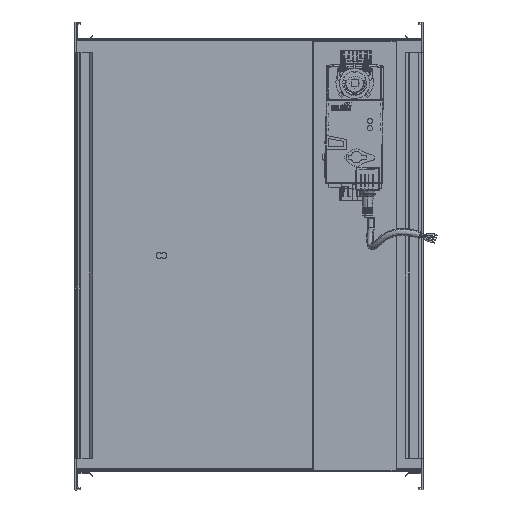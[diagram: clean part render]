
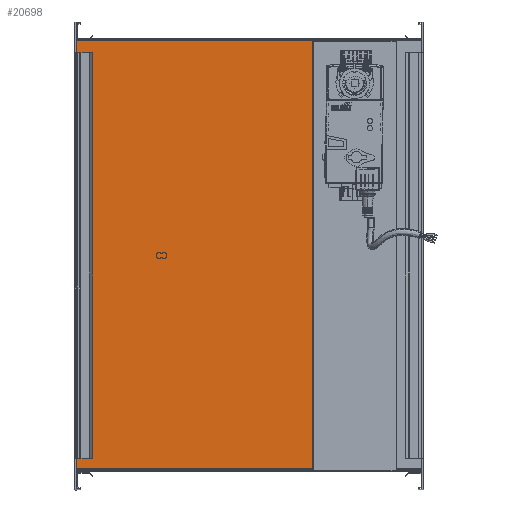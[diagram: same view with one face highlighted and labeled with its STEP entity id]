
A CAD part, top view. The second image highlights one B-rep face of the part: STEP entity #20698.
In plain terms, the highlighted planar face has unit normal (0, 0, 1).
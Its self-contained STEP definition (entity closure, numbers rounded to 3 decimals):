
#1506 = VECTOR ( 'NONE', #58450, 1000. ) ;
#1626 = FACE_OUTER_BOUND ( 'NONE', #51613, .T. ) ;
#1730 = DIRECTION ( 'NONE',  ( 0., -1., 0. ) ) ;
#5839 = VERTEX_POINT ( 'NONE', #78986 ) ;
#11553 = VECTOR ( 'NONE', #73950, 1000. ) ;
#12336 = CARTESIAN_POINT ( 'NONE',  ( -244.423, -233.848, 1450. ) ) ;
#14433 = LINE ( 'NONE', #43360, #1506 ) ;
#14615 = CARTESIAN_POINT ( 'NONE',  ( -244.423, -233.848, 1450. ) ) ;
#15346 = DIRECTION ( 'NONE',  ( 0., 0., 1. ) ) ;
#16149 = CARTESIAN_POINT ( 'NONE',  ( 28.589, -237.358, 1450. ) ) ;
#17214 = PLANE ( 'NONE',  #73071 ) ;
#18773 = ORIENTED_EDGE ( 'NONE', *, *, #24497, .T. ) ;
#20698 = ADVANCED_FACE ( 'NONE', ( #1626 ), #17214, .T. ) ;
#23486 = CARTESIAN_POINT ( 'NONE',  ( -244.423, -233.848, 1450. ) ) ;
#24497 = EDGE_CURVE ( 'NONE', #87684, #51477, #44917, .T. ) ;
#25985 = EDGE_CURVE ( 'NONE', #56241, #87684, #87418, .T. ) ;
#26946 = EDGE_CURVE ( 'NONE', #5839, #51477, #81019, .T. ) ;
#39054 = CARTESIAN_POINT ( 'NONE',  ( -244.423, -233.848, 1450. ) ) ;
#40783 = VECTOR ( 'NONE', #1730, 1000. ) ;
#43360 = CARTESIAN_POINT ( 'NONE',  ( -244.423, 262.152, 1450. ) ) ;
#44917 = LINE ( 'NONE', #14615, #51662 ) ;
#51477 = VERTEX_POINT ( 'NONE', #54559 ) ;
#51613 = EDGE_LOOP ( 'NONE', ( #18773, #79158, #91544, #88047 ) ) ;
#51662 = VECTOR ( 'NONE', #73808, 1000. ) ;
#54559 = CARTESIAN_POINT ( 'NONE',  ( 28.589, -233.848, 1450. ) ) ;
#56241 = VERTEX_POINT ( 'NONE', #60626 ) ;
#58450 = DIRECTION ( 'NONE',  ( 1., 0., 0. ) ) ;
#60626 = CARTESIAN_POINT ( 'NONE',  ( -244.423, 262.152, 1450. ) ) ;
#65753 = EDGE_CURVE ( 'NONE', #56241, #5839, #14433, .T. ) ;
#67399 = DIRECTION ( 'NONE',  ( 1., 0., 0. ) ) ;
#73071 = AXIS2_PLACEMENT_3D ( 'NONE', #39054, #15346, #67399 ) ;
#73808 = DIRECTION ( 'NONE',  ( 1., 0., 0. ) ) ;
#73950 = DIRECTION ( 'NONE',  ( 0., -1., 0. ) ) ;
#78986 = CARTESIAN_POINT ( 'NONE',  ( 28.589, 262.152, 1450. ) ) ;
#79158 = ORIENTED_EDGE ( 'NONE', *, *, #26946, .F. ) ;
#81019 = LINE ( 'NONE', #16149, #11553 ) ;
#87418 = LINE ( 'NONE', #23486, #40783 ) ;
#87684 = VERTEX_POINT ( 'NONE', #12336 ) ;
#88047 = ORIENTED_EDGE ( 'NONE', *, *, #25985, .T. ) ;
#91544 = ORIENTED_EDGE ( 'NONE', *, *, #65753, .F. ) ;
